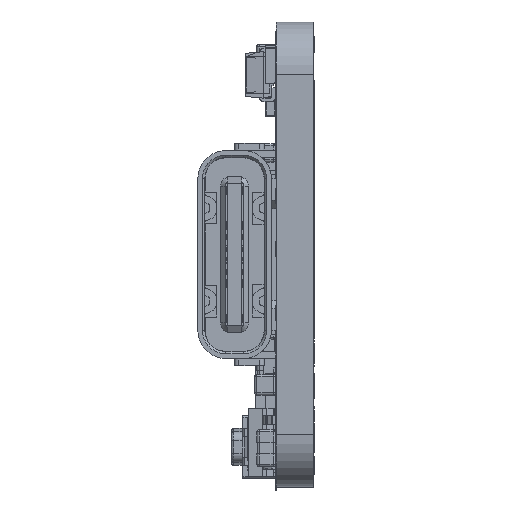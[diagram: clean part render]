
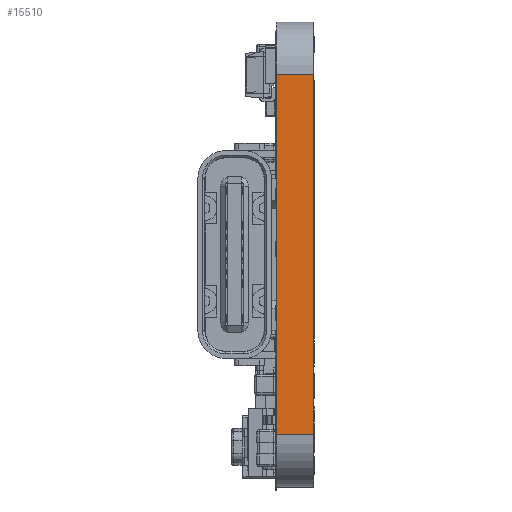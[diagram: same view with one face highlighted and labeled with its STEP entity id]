
A CAD part, left-side view. The second image highlights one B-rep face of the part: STEP entity #15510.
In plain terms, the highlighted planar face has unit normal (-1, 0, 0).
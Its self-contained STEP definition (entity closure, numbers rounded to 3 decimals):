
#15510 = ADVANCED_FACE ( 'NONE', ( #255812 ), #257144, .T. ) ;
#66752 = VERTEX_POINT ( 'NONE', #133235 ) ;
#66756 = VERTEX_POINT ( 'NONE', #133175 ) ;
#68864 = VERTEX_POINT ( 'NONE', #134408 ) ;
#76642 = EDGE_CURVE ( 'NONE', #66752, #66756, #135680, .T. ) ;
#101467 = ORIENTED_EDGE ( 'NONE', *, *, #76642, .F. ) ;
#101469 = ORIENTED_EDGE ( 'NONE', *, *, #106492, .F. ) ;
#101514 = ORIENTED_EDGE ( 'NONE', *, *, #106447, .T. ) ;
#101544 = ORIENTED_EDGE ( 'NONE', *, *, #105699, .T. ) ;
#105699 = EDGE_CURVE ( 'NONE', #68864, #109908, #144064, .T. ) ;
#106447 = EDGE_CURVE ( 'NONE', #109908, #66756, #150066, .T. ) ;
#106492 = EDGE_CURVE ( 'NONE', #68864, #66752, #150142, .T. ) ;
#109908 = VERTEX_POINT ( 'NONE', #196395 ) ;
#133175 = CARTESIAN_POINT ( 'NONE',  ( 100., 0., -102.25 ) ) ;
#133235 = CARTESIAN_POINT ( 'NONE',  ( 100., 0., -117.75 ) ) ;
#134408 = CARTESIAN_POINT ( 'NONE',  ( 100., -1.6, -117.75 ) ) ;
#134784 = DIRECTION ( 'NONE',  ( 0., 0., 1. ) ) ;
#134794 = CARTESIAN_POINT ( 'NONE',  ( 100., 0., -64.082 ) ) ;
#135680 = LINE ( 'NONE', #134794, #135696 ) ;
#135696 = VECTOR ( 'NONE', #134784, 1000. ) ;
#144064 = LINE ( 'NONE', #148362, #144079 ) ;
#144079 = VECTOR ( 'NONE', #148355, 1000. ) ;
#148355 = DIRECTION ( 'NONE',  ( 0., 0., 1. ) ) ;
#148362 = CARTESIAN_POINT ( 'NONE',  ( 100., -1.6, -64.082 ) ) ;
#149199 = CARTESIAN_POINT ( 'NONE',  ( 100., -1.6, -102.25 ) ) ;
#149211 = DIRECTION ( 'NONE',  ( 0., 1., 0. ) ) ;
#149244 = DIRECTION ( 'NONE',  ( 0., 1., 0. ) ) ;
#149258 = CARTESIAN_POINT ( 'NONE',  ( 100., -1.6, -117.75 ) ) ;
#150030 = VECTOR ( 'NONE', #149211, 1000. ) ;
#150066 = LINE ( 'NONE', #149199, #150030 ) ;
#150104 = VECTOR ( 'NONE', #149244, 1000. ) ;
#150142 = LINE ( 'NONE', #149258, #150104 ) ;
#158474 = EDGE_LOOP ( 'NONE', ( #101467, #101469, #101544, #101514 ) ) ;
#181786 = AXIS2_PLACEMENT_3D ( 'NONE', #257174, #257176, #257177 ) ;
#196395 = CARTESIAN_POINT ( 'NONE',  ( 100., -1.6, -102.25 ) ) ;
#255812 = FACE_OUTER_BOUND ( 'NONE', #158474, .T. ) ;
#257144 = PLANE ( 'NONE',  #181786 ) ;
#257174 = CARTESIAN_POINT ( 'NONE',  ( 100., -1.6, -64.082 ) ) ;
#257176 = DIRECTION ( 'NONE',  ( -1., 0., 0. ) ) ;
#257177 = DIRECTION ( 'NONE',  ( 0., 0., 1. ) ) ;
